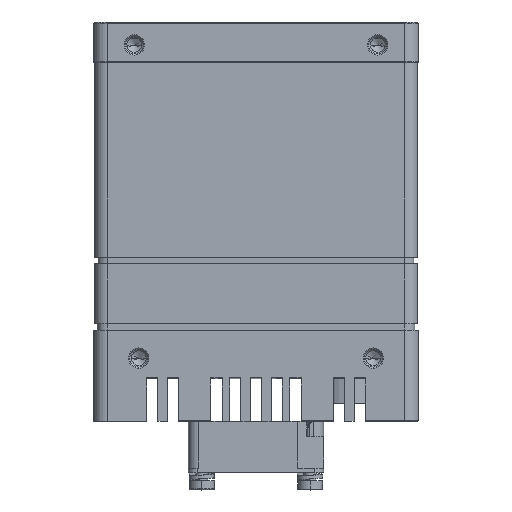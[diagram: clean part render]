
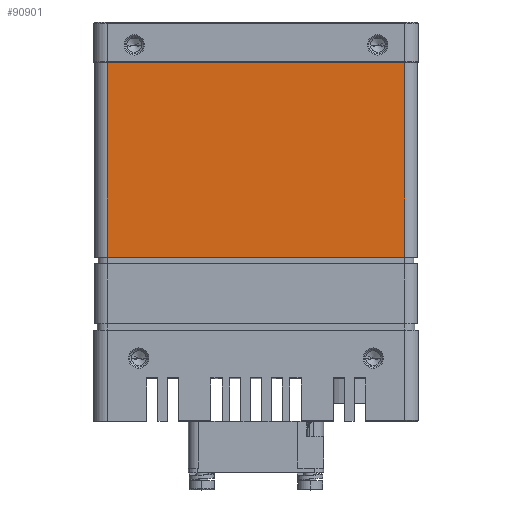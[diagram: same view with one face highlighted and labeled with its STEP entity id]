
A CAD part, top view. The second image highlights one B-rep face of the part: STEP entity #90901.
In plain terms, the highlighted planar face has unit normal (0, 0, 1) as drawn and (0, 0, -1) by its records, which use the part's own axes.
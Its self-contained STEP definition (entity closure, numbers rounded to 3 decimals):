
#43867=DIRECTION('',(-1.,0.,0.));
#43868=VECTOR('',#43867,66.);
#43869=CARTESIAN_POINT('',(33.,-55.1,-35.8));
#43870=LINE('',#43869,#43868);
#44791=DIRECTION('',(0.,-1.,0.));
#44792=VECTOR('',#44791,43.1);
#44793=CARTESIAN_POINT('',(33.,-12.,-35.8));
#44794=LINE('',#44793,#44792);
#45769=DIRECTION('',(0.,1.,0.));
#45770=VECTOR('',#45769,43.1);
#45771=CARTESIAN_POINT('',(-33.,-55.1,-35.8));
#45772=LINE('',#45771,#45770);
#45798=DIRECTION('',(-1.,0.,0.));
#45799=VECTOR('',#45798,66.);
#45800=CARTESIAN_POINT('',(33.,-12.,-35.8));
#45801=LINE('',#45800,#45799);
#59038=CARTESIAN_POINT('',(33.,-55.1,-35.8));
#59039=VERTEX_POINT('',#59038);
#59040=CARTESIAN_POINT('',(-33.,-55.1,-35.8));
#59041=VERTEX_POINT('',#59040);
#65208=CARTESIAN_POINT('',(33.,-12.,-35.8));
#65209=CARTESIAN_POINT('',(-33.,-12.,-35.8));
#65210=VERTEX_POINT('',#65208);
#65211=VERTEX_POINT('',#65209);
#90890=CARTESIAN_POINT('',(-33.,-10.,-35.8));
#90891=DIRECTION('',(0.,0.,1.));
#90892=DIRECTION('',(1.,0.,0.));
#90893=AXIS2_PLACEMENT_3D('',#90890,#90891,#90892);
#90894=PLANE('',#90893);
#90895=ORIENTED_EDGE('',*,*,#90881,.T.);
#90896=ORIENTED_EDGE('',*,*,#90856,.F.);
#90897=ORIENTED_EDGE('',*,*,#89322,.F.);
#90898=ORIENTED_EDGE('',*,*,#90041,.F.);
#90899=EDGE_LOOP('',(#90895,#90896,#90897,#90898));
#90900=FACE_OUTER_BOUND('',#90899,.F.);
#90901=ADVANCED_FACE('',(#90900),#90894,.F.);
#89322=EDGE_CURVE('',#59039,#59041,#43870,.T.);
#90041=EDGE_CURVE('',#65210,#59039,#44794,.T.);
#90856=EDGE_CURVE('',#59041,#65211,#45772,.T.);
#90881=EDGE_CURVE('',#65210,#65211,#45801,.T.);
